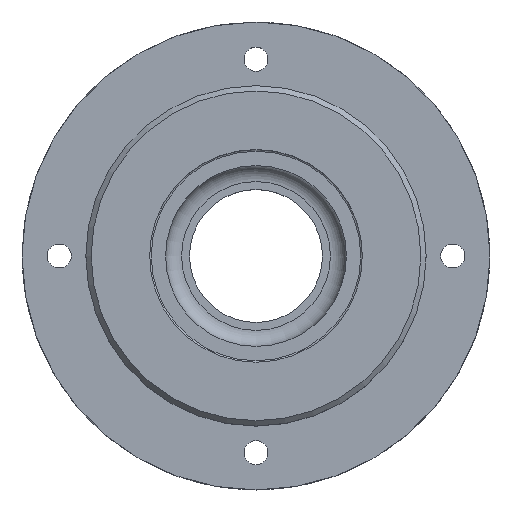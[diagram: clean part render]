
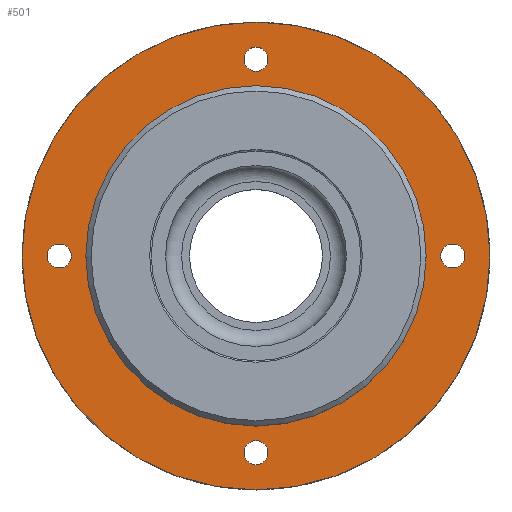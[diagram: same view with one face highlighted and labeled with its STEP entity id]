
A CAD part, top view. The second image highlights one B-rep face of the part: STEP entity #501.
In plain terms, the highlighted planar face has unit normal (0, 0, 1).
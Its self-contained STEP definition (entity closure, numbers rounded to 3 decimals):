
#73=FACE_BOUND('',#165,.T.);
#74=FACE_BOUND('',#166,.T.);
#75=FACE_BOUND('',#167,.T.);
#76=FACE_BOUND('',#168,.T.);
#77=FACE_BOUND('',#169,.T.);
#88=PLANE('',#608);
#121=FACE_OUTER_BOUND('',#164,.T.);
#164=EDGE_LOOP('',(#457));
#165=EDGE_LOOP('',(#458));
#166=EDGE_LOOP('',(#459));
#167=EDGE_LOOP('',(#460));
#168=EDGE_LOOP('',(#461));
#169=EDGE_LOOP('',(#462));
#179=CIRCLE('',#540,2.25);
#184=CIRCLE('',#548,2.25);
#189=CIRCLE('',#556,2.25);
#199=CIRCLE('',#570,2.25);
#205=CIRCLE('',#580,32.);
#216=CIRCLE('',#599,44.);
#229=VERTEX_POINT('',#821);
#234=VERTEX_POINT('',#836);
#239=VERTEX_POINT('',#851);
#245=VERTEX_POINT('',#873);
#251=VERTEX_POINT('',#893);
#259=VERTEX_POINT('',#922);
#274=EDGE_CURVE('',#229,#229,#179,.T.);
#281=EDGE_CURVE('',#234,#234,#184,.T.);
#288=EDGE_CURVE('',#239,#239,#189,.T.);
#300=EDGE_CURVE('',#245,#245,#199,.T.);
#310=EDGE_CURVE('',#251,#251,#205,.T.);
#322=EDGE_CURVE('',#259,#259,#216,.T.);
#457=ORIENTED_EDGE('',*,*,#322,.F.);
#458=ORIENTED_EDGE('',*,*,#274,.T.);
#459=ORIENTED_EDGE('',*,*,#281,.T.);
#460=ORIENTED_EDGE('',*,*,#288,.T.);
#461=ORIENTED_EDGE('',*,*,#300,.T.);
#462=ORIENTED_EDGE('',*,*,#310,.T.);
#501=ADVANCED_FACE('',(#121,#73,#74,#75,#76,#77),#88,.F.);
#540=AXIS2_PLACEMENT_3D('',#823,#644,#645);
#548=AXIS2_PLACEMENT_3D('',#838,#662,#663);
#556=AXIS2_PLACEMENT_3D('',#853,#680,#681);
#570=AXIS2_PLACEMENT_3D('',#875,#710,#711);
#580=AXIS2_PLACEMENT_3D('',#895,#734,#735);
#599=AXIS2_PLACEMENT_3D('',#923,#773,#774);
#608=AXIS2_PLACEMENT_3D('',#936,#793,#794);
#644=DIRECTION('center_axis',(0.,0.,-1.));
#645=DIRECTION('ref_axis',(0.,1.,0.));
#662=DIRECTION('center_axis',(0.,0.,-1.));
#663=DIRECTION('ref_axis',(1.,0.,0.));
#680=DIRECTION('center_axis',(0.,0.,-1.));
#681=DIRECTION('ref_axis',(0.,-1.,0.));
#710=DIRECTION('center_axis',(0.,0.,-1.));
#711=DIRECTION('ref_axis',(-1.,0.,0.));
#734=DIRECTION('center_axis',(0.,0.,-1.));
#735=DIRECTION('ref_axis',(-1.,0.,0.));
#773=DIRECTION('center_axis',(0.,0.,-1.));
#774=DIRECTION('ref_axis',(-1.,0.,0.));
#793=DIRECTION('center_axis',(0.,0.,-1.));
#794=DIRECTION('ref_axis',(-1.,0.,0.));
#821=CARTESIAN_POINT('',(0.,34.75,7.));
#823=CARTESIAN_POINT('Origin',(0.,37.,7.));
#836=CARTESIAN_POINT('',(34.75,0.,7.));
#838=CARTESIAN_POINT('Origin',(37.,0.,7.));
#851=CARTESIAN_POINT('',(0.,-34.75,7.));
#853=CARTESIAN_POINT('Origin',(0.,-37.,7.));
#873=CARTESIAN_POINT('',(-34.75,0.,7.));
#875=CARTESIAN_POINT('Origin',(-37.,0.,7.));
#893=CARTESIAN_POINT('',(32.,0.,7.));
#895=CARTESIAN_POINT('Origin',(0.,0.,7.));
#922=CARTESIAN_POINT('',(44.,0.,7.));
#923=CARTESIAN_POINT('Origin',(0.,0.,7.));
#936=CARTESIAN_POINT('Origin',(0.,0.,7.));
